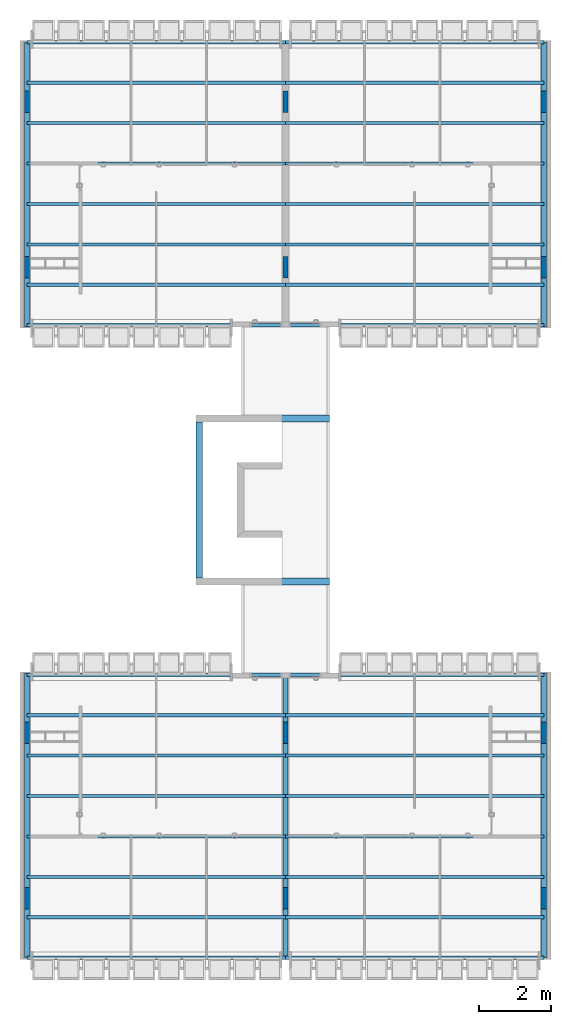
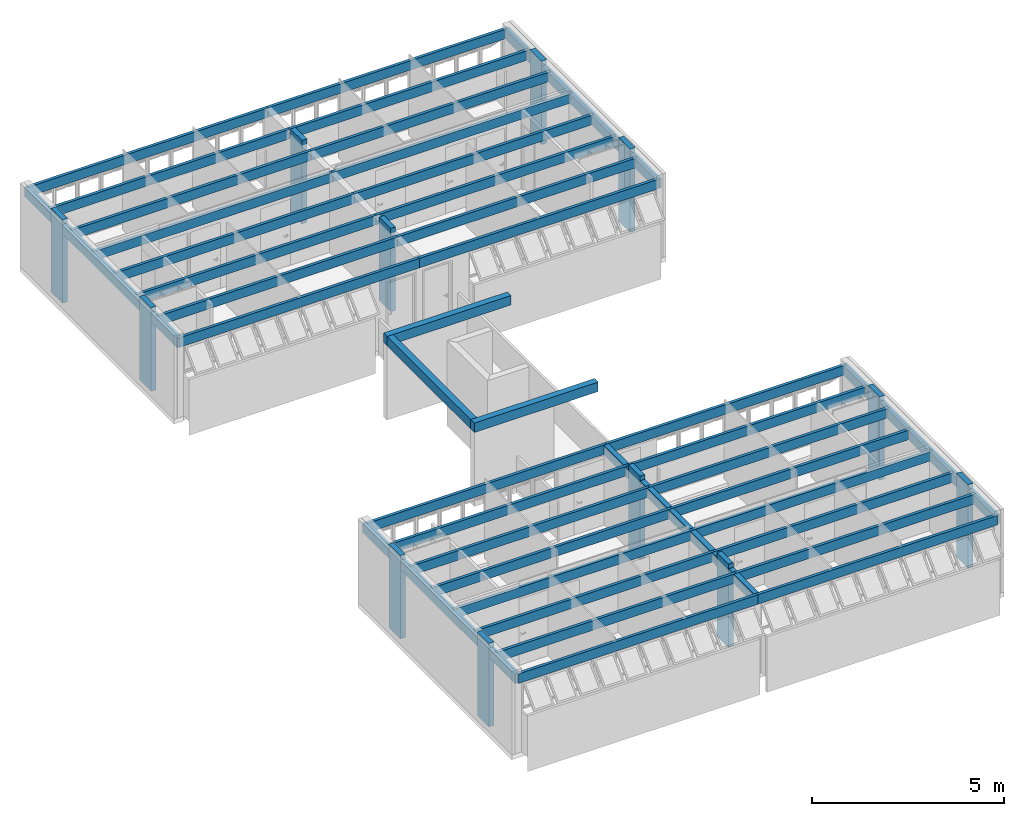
# One storey, part 1 of 37: 40 beams, 12 columns.
"""IFC2X3 building model written with IfcOpenShell, lengths in millimetres."""

from ifc_helpers import new_model, entity, si_unit, converted_unit, derived_unit, money_unit, direction, frame, frame_2d, origin_with_axes, origin_2d_with_axis, place, context, subcontext, project, spatial, rectangle, extrude, material, type_object, element, save


model = new_model("IFC2X3")

# Units and contexts
model_context = context("Model", 3, precision=0.01, world=origin_with_axes(), true_north=direction((0.0, 1.0)))
body_context = subcontext(model_context, "Body", "Model", "MODEL_VIEW")
ifc_project = project(units=[si_unit("LENGTHUNIT", "METRE", prefix="MILLI"), si_unit("AREAUNIT", "SQUARE_METRE"), si_unit("VOLUMEUNIT", "CUBIC_METRE"), converted_unit("PLANEANGLEUNIT", "DEGREE", entity("IfcPlaneAngleMeasure", 0.0174532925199), si_unit("PLANEANGLEUNIT", "RADIAN"), dimensions=[0, 0, 0, 0, 0, 0, 0]), money_unit("USD"), converted_unit("TIMEUNIT", "Year", entity("IfcTimeMeasure", 31556926.0), si_unit("TIMEUNIT", "SECOND"), dimensions=[0, 0, 1, 0, 0, 0, 0]), si_unit("MASSUNIT", "GRAM", prefix="KILO"), si_unit("THERMODYNAMICTEMPERATUREUNIT", "DEGREE_CELSIUS"), si_unit("LUMINOUSINTENSITYUNIT", "LUMEN"), si_unit("ENERGYUNIT", "JOULE", prefix="MEGA"), derived_unit("THERMALCONDUCTANCEUNIT", [(si_unit("POWERUNIT", "WATT"), 1), (si_unit("LENGTHUNIT", "METRE"), -1), (si_unit("THERMODYNAMICTEMPERATUREUNIT", "KELVIN"), -1)]), derived_unit("SPECIFICHEATCAPACITYUNIT", [(si_unit("ENERGYUNIT", "JOULE"), 1), (si_unit("MASSUNIT", "GRAM", prefix="KILO"), -1), (si_unit("THERMODYNAMICTEMPERATUREUNIT", "KELVIN"), -1)]), derived_unit("MASSDENSITYUNIT", [(si_unit("MASSUNIT", "GRAM", prefix="KILO"), 1), (si_unit("VOLUMEUNIT", "CUBIC_METRE"), -1)])], contexts=[model_context])

# Site, building, storey
site_placement = place(None, origin_with_axes())
site = spatial("IfcSite", under=ifc_project, at=site_placement, Name="Local", CompositionType="ELEMENT")
building_placement = place(site_placement, origin_with_axes())
building = spatial("IfcBuilding", under=site, at=building_placement, Name="Construção", CompositionType="ELEMENT")
storey_placement = place(building_placement, frame((0.0, 0.0, 5300.0), z_axis=(0.0, 0.0, 1.0), x_axis=(1.0, 0.0, 0.0)))
storey = spatial("IfcBuildingStorey", under=building, at=storey_placement, Name="Terceiro Pavimento", CompositionType="ELEMENT", Elevation=5300.0)

# Columns
ifc_material = material(Name="Concreto Armado Moldado in Loco - Estrutural")
column_type = type_object("IfcColumnType", Name="Concreto Armado Moldado in Loco - Estrutural 600 x 150", PredefinedType="NOTDEFINED")
column_1_placement = place(storey_placement, frame((7385.0, 2000.0, 0.0), z_axis=(0.0, 0.0, 1.0), x_axis=(0.0, -1.0, 0.0)))
element("IfcColumn", 1, at=column_1_placement, inside=storey, type_object=column_type, material=ifc_material, Name="CIRC3-PILAR-002", context=body_context, shape_type="SweptSolid", body=[
    extrude(rectangle(XDim=600.0, YDim=150.0, at=origin_2d_with_axis()), origin_with_axes(), (0.0, 0.0, 1.0), 2650.0),
])
column_2_placement = place(storey_placement, frame((7385.0, 19560.0, 0.0), z_axis=(0.0, 0.0, 1.0), x_axis=(0.0, -1.0, 0.0)))
element("IfcColumn", 2, at=column_2_placement, inside=storey, type_object=column_type, material=ifc_material, Name="CIRC3-PILAR-004", context=body_context, shape_type="SweptSolid", body=[
    extrude(rectangle(XDim=600.0, YDim=150.0, at=origin_2d_with_axis()), frame((0.0, 0.0, 0.0), z_axis=(0.0, 0.0, -1.0), x_axis=(-1.0, 0.0, 0.0)), (0.0, 0.0, -1.0), 2650.0),
])
column_3_placement = place(storey_placement, frame((7385.0, 6600.0, 0.0), z_axis=(0.0, 0.0, 1.0), x_axis=(0.0, -1.0, 0.0)))
element("IfcColumn", 3, at=column_3_placement, inside=storey, type_object=column_type, material=ifc_material, Name="CIRC3-PILAR-003", context=body_context, shape_type="SweptSolid", body=[
    extrude(rectangle(XDim=600.0, YDim=150.0, at=origin_2d_with_axis()), origin_with_axes(), (0.0, 0.0, 1.0), 2650.0),
])
column_4_placement = place(storey_placement, frame((7385.0, 24160.0, 0.0), z_axis=(0.0, 0.0, 1.0), x_axis=(0.0, -1.0, 0.0)))
element("IfcColumn", 4, at=column_4_placement, inside=storey, type_object=column_type, material=ifc_material, Name="CIRC3-PILAR-005", context=body_context, shape_type="SweptSolid", body=[
    extrude(rectangle(XDim=600.0, YDim=150.0, at=origin_2d_with_axis()), frame((0.0, 0.0, 0.0), z_axis=(0.0, 0.0, -1.0), x_axis=(-1.0, 0.0, 0.0)), (0.0, 0.0, -1.0), 2650.0),
])
for number, where, z_axis, x_axis, name in (
    (5, (195.0, 2000.0, 0.0), (0.0, 0.0, 1.0), (0.0, -1.0, 0.0), "APTO9-PILAR-000"),
    (6, (195.0, 6600.0, 0.0), (0.0, 0.0, 1.0), (0.0, -1.0, 0.0), "APTO9-PILAR-001"),
):
    element("IfcColumn", number, at=place(storey_placement, frame(where, z_axis=z_axis, x_axis=x_axis)), inside=storey, type_object=column_type, material=ifc_material, Name=name, context=body_context, shape_type="SweptSolid", body=[
        extrude(rectangle(XDim=600.0, YDim=150.0, at=origin_2d_with_axis()), origin_with_axes(), (0.0, 0.0, 1.0), 2650.0),
    ])
for number, where, z_axis, x_axis, name in (
    (7, (14575.0, 2000.0, 0.0), (0.0, 0.0, 1.0), (0.0, 1.0, 0.0), "APTO10-PILAR-000"),
    (8, (14575.0, 6600.0, 0.0), (0.0, 0.0, 1.0), (0.0, 1.0, 0.0), "APTO10-PILAR-001"),
    (9, (195.0, 24160.0, 0.0), (0.0, 0.0, 1.0), (0.0, -1.0, 0.0), "APTO11-PILAR-000"),
    (10, (195.0, 19560.0, 0.0), (0.0, 0.0, 1.0), (0.0, -1.0, 0.0), "APTO11-PILAR-001"),
):
    element("IfcColumn", number, at=place(storey_placement, frame(where, z_axis=z_axis, x_axis=x_axis)), inside=storey, type_object=column_type, material=ifc_material, Name=name, context=body_context, shape_type="SweptSolid", body=[
        extrude(rectangle(XDim=600.0, YDim=150.0, at=origin_2d_with_axis()), frame((0.0, 0.0, 0.0), z_axis=(0.0, 0.0, -1.0), x_axis=(-1.0, 0.0, 0.0)), (0.0, 0.0, -1.0), 2650.0),
    ])
for number, where, z_axis, x_axis, name in (
    (11, (14575.0, 24160.0, 0.0), (0.0, 0.0, 1.0), (0.0, 1.0, 0.0), "APTO12-PILAR-000"),
    (12, (14575.0, 19560.0, 0.0), (0.0, 0.0, 1.0), (0.0, 1.0, 0.0), "APTO12-PILAR-001"),
):
    element("IfcColumn", number, at=place(storey_placement, frame(where, z_axis=z_axis, x_axis=x_axis)), inside=storey, type_object=column_type, material=ifc_material, Name=name, context=body_context, shape_type="SweptSolid", body=[
        extrude(rectangle(XDim=600.0, YDim=150.0, at=origin_2d_with_axis()), origin_with_axes(), (0.0, 0.0, 1.0), 2650.0),
    ])

# Beams
beam_type_1 = type_object("IfcBeamType", Name="Concreto Armado Moldado in Loco - Estrutural 150 x 300", PredefinedType="NOTDEFINED")
for number, where, z_axis, x_axis, name in (
    (13, (7460.0, 8265.0, 2500.0), (0.0, 0.0, 1.0), (-1.0, 0.0, 0.0), "CIRC3-VIGA-012"),
    (14, (270.0, 8265.0, 2500.0), (0.0, 0.0, 1.0), (-1.0, 0.0, 0.0), "APTO9-VIGA-009"),
):
    element("IfcBeam", number, at=place(storey_placement, frame(where, z_axis=z_axis, x_axis=x_axis)), inside=storey, type_object=beam_type_1, material=ifc_material, Name=name, context=body_context, shape_type="SweptSolid", body=[
        extrude(rectangle(XDim=300.0, YDim=150.0, at=frame_2d((-150.0, 75.0), x_axis=(1.0, 0.0))), frame((0.0, 0.0, 0.0), z_axis=(0.0, 1.0, 0.0), x_axis=(0.0, 0.0, 1.0)), (0.0, 0.0, 1.0), 7929.97902127),
    ])
for number, where, z_axis, x_axis, name in (
    (15, (14500.0, 8265.0, 2500.0), (0.0, 0.0, 1.0), (-1.0, 0.0, 0.0), "APTO10-VIGA-009"),
    (16, (270.0, 17895.0, 2500.0), (0.0, 0.0, 1.0), (1.0, 0.0, 0.0), "APTO11-VIGA-009"),
):
    element("IfcBeam", number, at=place(storey_placement, frame(where, z_axis=z_axis, x_axis=x_axis)), inside=storey, type_object=beam_type_1, material=ifc_material, Name=name, context=body_context, shape_type="SweptSolid", body=[
        extrude(rectangle(XDim=300.0, YDim=150.0, at=frame_2d((-150.0, -75.0), x_axis=(1.0, 0.0))), frame((0.0, 0.0, 0.0), z_axis=(0.0, 1.0, 0.0), x_axis=(0.0, 0.0, 1.0)), (0.0, 0.0, 1.0), 7929.97902127),
    ])
beam_1_placement = place(storey_placement, frame((14500.0, 17895.0, 2500.0), z_axis=(0.0, 0.0, 1.0), x_axis=(1.0, 0.0, 0.0)))
element("IfcBeam", 17, at=beam_1_placement, inside=storey, type_object=beam_type_1, material=ifc_material, Name="APTO12-VIGA-009", context=body_context, shape_type="SweptSolid", body=[
    extrude(rectangle(XDim=300.0, YDim=150.0, at=frame_2d((-150.0, 75.0), x_axis=(1.0, 0.0))), frame((0.0, 0.0, 0.0), z_axis=(0.0, 1.0, 0.0), x_axis=(0.0, 0.0, 1.0)), (0.0, 0.0, 1.0), 7929.97902127),
])
beam_type_2 = type_object("IfcBeamType", Name="Concreto Armado Moldado in Loco - Estrutural 90 x 300", PredefinedType="NOTDEFINED")
for number, where, z_axis, x_axis, name in (
    (18, (195.0, 390.0, 2500.0), (0.0, 0.0, 1.0), (0.0, -1.0, 0.0), "APTO9-VIGA-001"),
    (19, (195.0, 1515.0, 2500.0), (0.0, 0.0, 1.0), (0.0, -1.0, 0.0), "APTO9-VIGA-002"),
    (20, (195.0, 2640.0, 2500.0), (0.0, 0.0, 1.0), (0.0, -1.0, 0.0), "APTO9-VIGA-003"),
    (21, (195.0, 3765.2195667, 2500.0), (0.0, 0.0, 1.0), (0.0, -1.0, 0.0), "APTO9-VIGA-004"),
    (22, (195.0, 4890.0, 2500.0), (0.0, 0.0, 1.0), (0.0, -1.0, 0.0), "APTO9-VIGA-005"),
    (23, (195.0, 8265.0, 2500.0), (0.0, 0.0, 1.0), (0.0, -1.0, 0.0), "APTO9-VIGA-008"),
    (24, (195.0, 6015.0, 2500.0), (0.0, 0.0, 1.0), (0.0, -1.0, 0.0), "APTO9-VIGA-006"),
    (25, (195.0, 7140.0, 2500.0), (0.0, 0.0, 1.0), (0.0, -1.0, 0.0), "APTO9-VIGA-007"),
):
    element("IfcBeam", number, at=place(storey_placement, frame(where, z_axis=z_axis, x_axis=x_axis)), inside=storey, type_object=beam_type_2, material=ifc_material, Name=name, context=body_context, shape_type="SweptSolid", body=[
        extrude(rectangle(XDim=300.0, YDim=90.0, at=frame_2d((-150.0, 45.0), x_axis=(1.0, 0.0))), frame((0.0, 0.0, 0.0), z_axis=(0.0, 1.0, 0.0), x_axis=(0.0, 0.0, 1.0)), (0.0, 0.0, 1.0), 7190.0),
    ])
for number, where, z_axis, x_axis, name in (
    (26, (14575.0, 390.0, 2500.0), (0.0, 0.0, 1.0), (0.0, 1.0, 0.0), "APTO10-VIGA-001"),
    (27, (14575.0, 1515.0, 2500.0), (0.0, 0.0, 1.0), (0.0, 1.0, 0.0), "APTO10-VIGA-002"),
    (28, (14575.0, 2640.0, 2500.0), (0.0, 0.0, 1.0), (0.0, 1.0, 0.0), "APTO10-VIGA-003"),
    (29, (14575.0, 3765.2195667, 2500.0), (0.0, 0.0, 1.0), (0.0, 1.0, 0.0), "APTO10-VIGA-004"),
    (30, (14575.0, 4890.0, 2500.0), (0.0, 0.0, 1.0), (0.0, 1.0, 0.0), "APTO10-VIGA-005"),
    (31, (14575.0, 8265.0, 2500.0), (0.0, 0.0, 1.0), (0.0, 1.0, 0.0), "APTO10-VIGA-008"),
    (32, (14575.0, 6015.0, 2500.0), (0.0, 0.0, 1.0), (0.0, 1.0, 0.0), "APTO10-VIGA-006"),
    (33, (14575.0, 7140.0, 2500.0), (0.0, 0.0, 1.0), (0.0, 1.0, 0.0), "APTO10-VIGA-007"),
    (34, (195.0, 25770.0, 2500.0), (0.0, 0.0, 1.0), (0.0, -1.0, 0.0), "APTO11-VIGA-001"),
    (35, (195.0, 24645.0, 2500.0), (0.0, 0.0, 1.0), (0.0, -1.0, 0.0), "APTO11-VIGA-002"),
    (36, (195.0, 23520.0, 2500.0), (0.0, 0.0, 1.0), (0.0, -1.0, 0.0), "APTO11-VIGA-003"),
    (37, (195.0, 22394.7804333, 2500.0), (0.0, 0.0, 1.0), (0.0, -1.0, 0.0), "APTO11-VIGA-004"),
    (38, (195.0, 21270.0, 2500.0), (0.0, 0.0, 1.0), (0.0, -1.0, 0.0), "APTO11-VIGA-005"),
    (39, (195.0, 17895.0, 2500.0), (0.0, 0.0, 1.0), (0.0, -1.0, 0.0), "APTO11-VIGA-008"),
    (40, (195.0, 20145.0, 2500.0), (0.0, 0.0, 1.0), (0.0, -1.0, 0.0), "APTO11-VIGA-006"),
    (41, (195.0, 19020.0, 2500.0), (0.0, 0.0, 1.0), (0.0, -1.0, 0.0), "APTO11-VIGA-007"),
):
    element("IfcBeam", number, at=place(storey_placement, frame(where, z_axis=z_axis, x_axis=x_axis)), inside=storey, type_object=beam_type_2, material=ifc_material, Name=name, context=body_context, shape_type="SweptSolid", body=[
        extrude(rectangle(XDim=300.0, YDim=90.0, at=frame_2d((-150.0, -45.0), x_axis=(1.0, 0.0))), frame((0.0, 0.0, 0.0), z_axis=(0.0, 1.0, 0.0), x_axis=(0.0, 0.0, 1.0)), (0.0, 0.0, 1.0), 7190.0),
    ])
for number, where, z_axis, x_axis, name in (
    (42, (14575.0, 25770.0, 2500.0), (0.0, 0.0, 1.0), (0.0, 1.0, 0.0), "APTO12-VIGA-001"),
    (43, (14575.0, 24645.0, 2500.0), (0.0, 0.0, 1.0), (0.0, 1.0, 0.0), "APTO12-VIGA-002"),
    (44, (14575.0, 23520.0, 2500.0), (0.0, 0.0, 1.0), (0.0, 1.0, 0.0), "APTO12-VIGA-003"),
    (45, (14575.0, 22394.7804333, 2500.0), (0.0, 0.0, 1.0), (0.0, 1.0, 0.0), "APTO12-VIGA-004"),
    (46, (14575.0, 21270.0, 2500.0), (0.0, 0.0, 1.0), (0.0, 1.0, 0.0), "APTO12-VIGA-005"),
    (47, (14575.0, 17895.0, 2500.0), (0.0, 0.0, 1.0), (0.0, 1.0, 0.0), "APTO12-VIGA-008"),
    (48, (14575.0, 20145.0, 2500.0), (0.0, 0.0, 1.0), (0.0, 1.0, 0.0), "APTO12-VIGA-006"),
    (49, (14575.0, 19020.0, 2500.0), (0.0, 0.0, 1.0), (0.0, 1.0, 0.0), "APTO12-VIGA-007"),
):
    element("IfcBeam", number, at=place(storey_placement, frame(where, z_axis=z_axis, x_axis=x_axis)), inside=storey, type_object=beam_type_2, material=ifc_material, Name=name, context=body_context, shape_type="SweptSolid", body=[
        extrude(rectangle(XDim=300.0, YDim=90.0, at=frame_2d((-150.0, 45.0), x_axis=(1.0, 0.0))), frame((0.0, 0.0, 0.0), z_axis=(0.0, 1.0, 0.0), x_axis=(0.0, 0.0, 1.0)), (0.0, 0.0, 1.0), 7190.0),
    ])
beam_type_3 = type_object("IfcBeamType", Name="Concreto Armado Moldado in Loco - Estrutural 190 x 300", PredefinedType="NOTDEFINED")
for number, where, z_axis, x_axis, name in (
    (50, (4890.0, 10815.0, 2350.0), (0.0, 0.0, 1.0), (0.0, -1.0, 0.0), "CIRC3-VIGA-016"),
    (51, (4890.0, 15345.0, 2350.0), (0.0, 0.0, 1.0), (0.0, -1.0, 0.0), "CIRC3-VIGA-018"),
):
    element("IfcBeam", number, at=place(storey_placement, frame(where, z_axis=z_axis, x_axis=x_axis)), inside=storey, type_object=beam_type_3, material=ifc_material, Name=name, context=body_context, shape_type="SweptSolid", body=[
        extrude(rectangle(XDim=300.0, YDim=190.0, at=origin_2d_with_axis()), frame((0.0, 0.0, 0.0), z_axis=(0.0, 1.0, 0.0), x_axis=(0.0, 0.0, 1.0)), (0.0, 0.0, 1.0), 3720.0),
    ])
beam_2_placement = place(storey_placement, frame((4985.0, 15345.0, 2350.0), z_axis=(0.0, 0.0, 1.0), x_axis=(-1.0, 0.0, 0.0)))
element("IfcBeam", 52, at=beam_2_placement, inside=storey, type_object=beam_type_3, material=ifc_material, Name="CIRC3-VIGA-017", context=body_context, shape_type="SweptSolid", body=[
    extrude(rectangle(XDim=300.0, YDim=190.0, at=origin_2d_with_axis()), frame((0.0, 0.0, 0.0), z_axis=(0.0, 1.0, 0.0), x_axis=(0.0, 0.0, 1.0)), (0.0, 0.0, 1.0), 4530.0),
])

save(model, "model.ifc")
